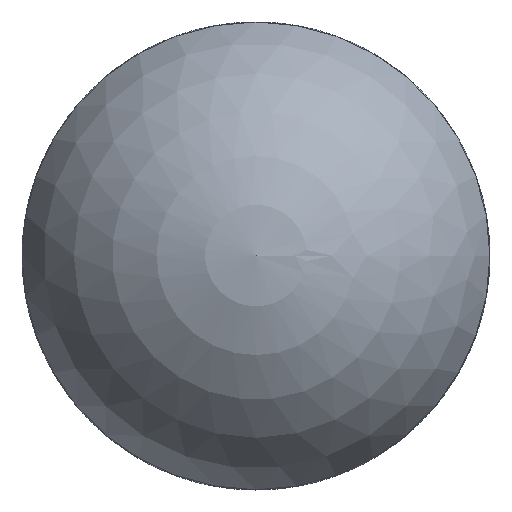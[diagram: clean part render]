
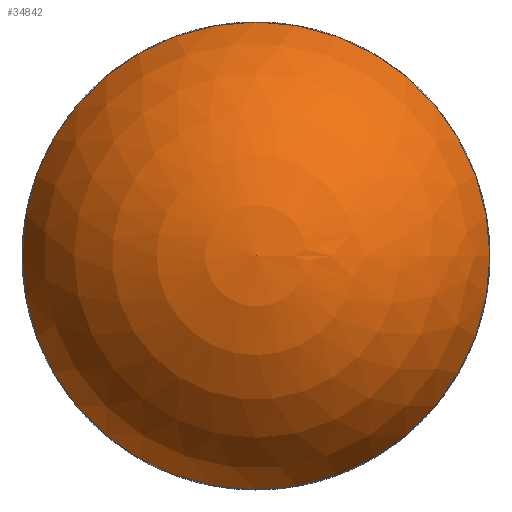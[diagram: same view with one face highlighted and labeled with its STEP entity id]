
A CAD part, top view. The second image highlights one B-rep face of the part: STEP entity #34842.
In plain terms, the highlighted spherical face has radius 12.5 mm.
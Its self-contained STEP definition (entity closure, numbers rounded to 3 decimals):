
#612 = CYLINDRICAL_SURFACE('',#613,11.843);
#613 = AXIS2_PLACEMENT_3D('',#614,#615,#616);
#614 = CARTESIAN_POINT('',(0.,0.,-1.));
#615 = DIRECTION('',(0.,0.,1.));
#616 = DIRECTION('',(1.,0.,-0.));
#684 = VERTEX_POINT('',#685);
#685 = CARTESIAN_POINT('',(11.843,0.,
    14.966));
#706 = EDGE_CURVE('',#684,#684,#707,.T.);
#707 = SURFACE_CURVE('',#708,(#713,#720),.PCURVE_S1.);
#708 = CIRCLE('',#709,11.843);
#709 = AXIS2_PLACEMENT_3D('',#710,#711,#712);
#710 = CARTESIAN_POINT('',(0.,0.,14.966));
#711 = DIRECTION('',(0.,0.,1.));
#712 = DIRECTION('',(0.,-1.,0.));
#713 = PCURVE('',#612,#714);
#714 = DEFINITIONAL_REPRESENTATION('',(#715),#719);
#715 = LINE('',#716,#717);
#716 = CARTESIAN_POINT('',(-1.571,15.966));
#717 = VECTOR('',#718,1.);
#718 = DIRECTION('',(1.,0.));
#719 = ( GEOMETRIC_REPRESENTATION_CONTEXT(2) 
PARAMETRIC_REPRESENTATION_CONTEXT() REPRESENTATION_CONTEXT('2D SPACE',''
  ) );
#720 = PCURVE('',#721,#726);
#721 = SPHERICAL_SURFACE('',#722,12.5);
#722 = AXIS2_PLACEMENT_3D('',#723,#724,#725);
#723 = CARTESIAN_POINT('',(0.,0.,10.966));
#724 = DIRECTION('',(0.,0.,1.));
#725 = DIRECTION('',(1.,0.,-0.));
#726 = DEFINITIONAL_REPRESENTATION('',(#727),#731);
#727 = LINE('',#728,#729);
#728 = CARTESIAN_POINT('',(-1.571,0.326));
#729 = VECTOR('',#730,1.);
#730 = DIRECTION('',(1.,0.));
#731 = ( GEOMETRIC_REPRESENTATION_CONTEXT(2) 
PARAMETRIC_REPRESENTATION_CONTEXT() REPRESENTATION_CONTEXT('2D SPACE',''
  ) );
#34842 = ADVANCED_FACE('',(#34843),#721,.T.);
#34843 = FACE_BOUND('',#34844,.T.);
#34844 = EDGE_LOOP('',(#34845,#34846,#34870));
#34845 = ORIENTED_EDGE('',*,*,#706,.T.);
#34846 = ORIENTED_EDGE('',*,*,#34847,.T.);
#34847 = EDGE_CURVE('',#684,#34848,#34850,.T.);
#34848 = VERTEX_POINT('',#34849);
#34849 = CARTESIAN_POINT('',(0.,0.,
    23.466));
#34850 = SEAM_CURVE('',#34851,(#34856,#34863),.PCURVE_S1.);
#34851 = CIRCLE('',#34852,12.5);
#34852 = AXIS2_PLACEMENT_3D('',#34853,#34854,#34855);
#34853 = CARTESIAN_POINT('',(0.,0.,10.966));
#34854 = DIRECTION('',(0.,-1.,0.));
#34855 = DIRECTION('',(1.,0.,0.));
#34856 = PCURVE('',#721,#34857);
#34857 = DEFINITIONAL_REPRESENTATION('',(#34858),#34862);
#34858 = LINE('',#34859,#34860);
#34859 = CARTESIAN_POINT('',(0.,-6.283));
#34860 = VECTOR('',#34861,1.);
#34861 = DIRECTION('',(0.,1.));
#34862 = ( GEOMETRIC_REPRESENTATION_CONTEXT(2) 
PARAMETRIC_REPRESENTATION_CONTEXT() REPRESENTATION_CONTEXT('2D SPACE',''
  ) );
#34863 = PCURVE('',#721,#34864);
#34864 = DEFINITIONAL_REPRESENTATION('',(#34865),#34869);
#34865 = LINE('',#34866,#34867);
#34866 = CARTESIAN_POINT('',(6.283,-6.283));
#34867 = VECTOR('',#34868,1.);
#34868 = DIRECTION('',(0.,1.));
#34869 = ( GEOMETRIC_REPRESENTATION_CONTEXT(2) 
PARAMETRIC_REPRESENTATION_CONTEXT() REPRESENTATION_CONTEXT('2D SPACE',''
  ) );
#34870 = ORIENTED_EDGE('',*,*,#34847,.F.);
